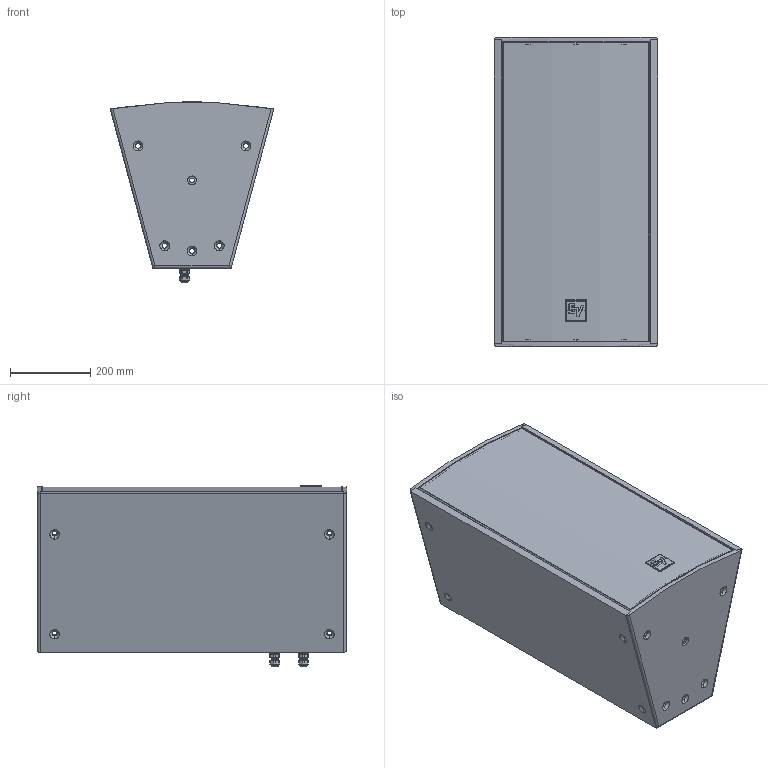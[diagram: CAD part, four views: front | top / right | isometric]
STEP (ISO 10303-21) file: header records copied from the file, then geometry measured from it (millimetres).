
FILE_DESCRIPTION (( 'STEP AP214' ), '1' );
FILE_NAME ('EVF-1122 3D CAD.STEP', '2021-07-23T20:43:37', ( '' ), ( '' ), 'SwSTEP 2.0', 'SolidWorks 2019', '' );
FILE_SCHEMA (( 'AUTOMOTIVE_DESIGN' ));
Length unit declared in the file: millimetre
Products named in the file (10): EVF-1122 Top And Bottom Panel; EVF-1122 Side Panel; EVF-1122 Grille; EVF-1122 Enclosure Assembly; EVF-1122 EV Logo; EVF-1122 Rear Panel; EVF-1122 Gland Nut Panel; EVF-1122 Gland Nut; EVF-1122 3D CAD
Assembly tree (11 placements, depth 3):
  EVF-1122 3D CAD
    EVF-1122 Enclosure Assembly
      EVF-1122 Top And Bottom Panel
      EVF-1122 Top And Bottom Panel
      EVF-1122 Rear Panel
      EVF-1122 Side Panel  x2
    EVF-1122 Grille
    EVF-1122 EV Logo
    EVF-1122 Gland Nut Panel
    EVF-1122 Gland Nut  x2
Bounding box: 406.4 x 768.55 x 452.41 mm (x, y, z)
Volume: 17602777.2 mm3; surface area: 2826284.4 mm2
Topology: 14 solids, 14 shells, 610 faces, 1563 edges, 985 vertices
Faces by surface type: cylinder 182, plane 159, bspline 145, cone 90, torus 34
Entity records: 29325 total; most frequent: CARTESIAN_POINT 18794, ORIENTED_EDGE 2348, DIRECTION 1766, EDGE_CURVE 1174, VERTEX_POINT 738, AXIS2_PLACEMENT_3D 673, EDGE_LOOP 530, ADVANCED_FACE 461
